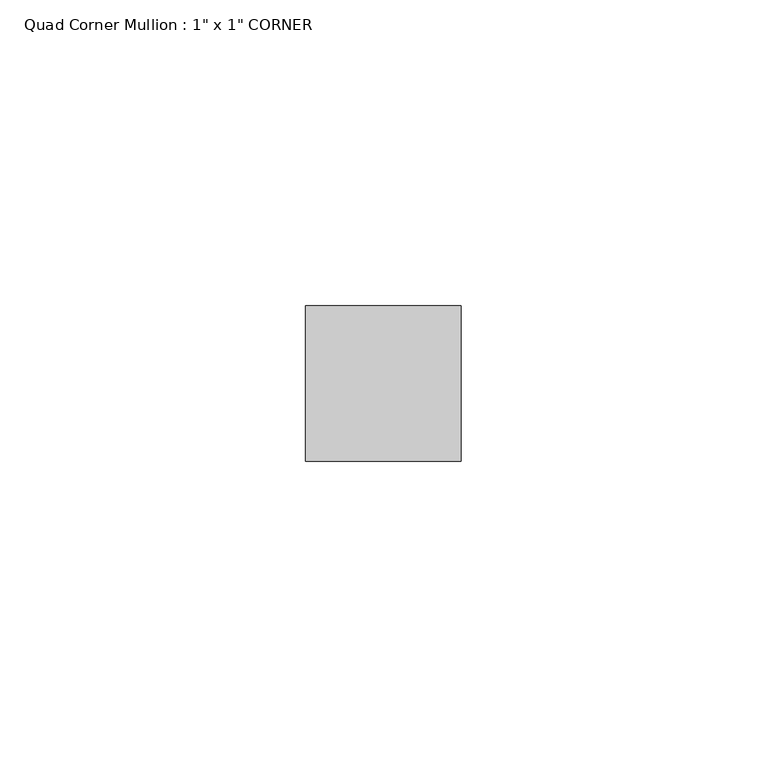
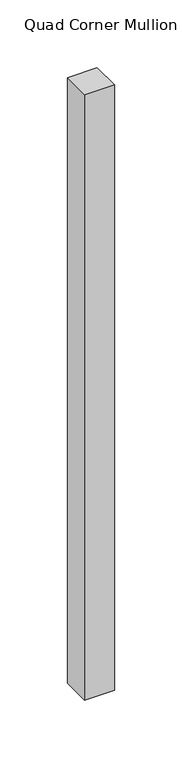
"""IFC4 building model written with IfcOpenShell, lengths in millimetres: member geometry."""

from ifc_helpers import new_model, si_unit, frame, origin, place, context, project, spatial, polyline, outline, extrude, source, transform, mapped, element, save


def member_fc5f9fec(model_context):
    return source(origin(), model_context, "Body", "SweptSolid", [
        extrude(outline(polyline([(0.0, 25.4), (0.0, 0.0), (-25.4, 0.0), (-25.4, 25.4), (0.0, 25.4)])), frame((0.0, 0.0, -546.1), z_axis=(0.0, 0.0, 1.0), x_axis=(1.0, 0.0, 0.0)), (0.0, 0.0, 1.0), 546.1),
    ])


if __name__ == "__main__":
    model = new_model("IFC4")
    model_context = context("Model", 3, world=origin())
    ifc_project = project(units=[si_unit("LENGTHUNIT", "METRE", prefix="MILLI")], contexts=[model_context])
    site = spatial("IfcSite", under=ifc_project)
    building = spatial("IfcBuilding", under=site)
    placement = place(None, origin())
    member_shape = member_fc5f9fec(model_context)
    element("IfcMember", 1, ObjectType="Quad Corner Mullion : 1\" x 1\" CORNER", at=placement, inside=building, context=model_context, shape_type="MappedRepresentation", body=[
        mapped(member_shape, transform((0.0, 0.0, 0.0), x_axis=(1.0, 0.0, 0.0), y_axis=(0.0, 1.0, 0.0), z_axis=(0.0, 0.0, 1.0))),
    ])
    save(model, "model.ifc")
